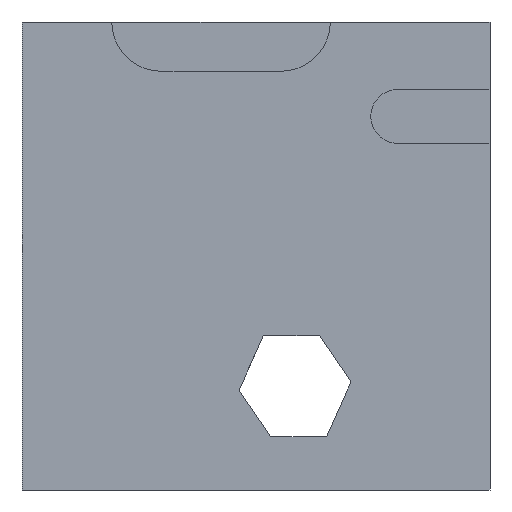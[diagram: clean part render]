
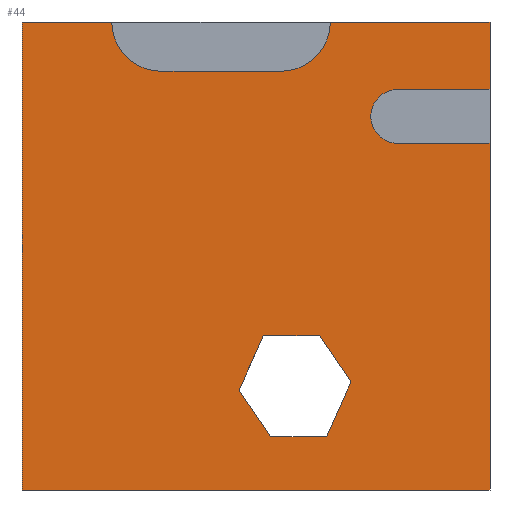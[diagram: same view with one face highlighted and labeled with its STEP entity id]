
A CAD part, front view. The second image highlights one B-rep face of the part: STEP entity #44.
In plain terms, the highlighted planar face has unit normal (0, -1, 0).
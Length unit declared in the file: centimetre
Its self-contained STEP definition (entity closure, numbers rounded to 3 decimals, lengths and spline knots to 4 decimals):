
#13 = ORIENTED_EDGE ( 'NONE', *, *, #607, .F. ) ;
#15 = DIRECTION ( 'NONE',  ( 0.563, 0., -0.827 ) ) ;
#19 = LINE ( 'NONE', #103, #591 ) ;
#20 = CARTESIAN_POINT ( 'NONE',  ( 515.8962, 0., 330.0424 ) ) ;
#26 = VERTEX_POINT ( 'NONE', #1005 ) ;
#27 = LINE ( 'NONE', #359, #149 ) ;
#32 = EDGE_CURVE ( 'NONE', #26, #650, #997, .T. ) ;
#35 = LINE ( 'NONE', #952, #1019 ) ;
#36 = ORIENTED_EDGE ( 'NONE', *, *, #923, .F. ) ;
#37 = VECTOR ( 'NONE', #655, 100. ) ;
#44 = ADVANCED_FACE ( 'NONE', ( #956, #382 ), #707, .F. ) ;
#56 = CARTESIAN_POINT ( 'NONE',  ( 1000., 0., 855.8858 ) ) ;
#64 = ORIENTED_EDGE ( 'NONE', *, *, #802, .F. ) ;
#65 = ORIENTED_EDGE ( 'NONE', *, *, #450, .F. ) ;
#74 = LINE ( 'NONE', #83, #37 ) ;
#83 = CARTESIAN_POINT ( 'NONE',  ( 702.9146, 0., 230.9403 ) ) ;
#102 = VECTOR ( 'NONE', #188, 100. ) ;
#103 = CARTESIAN_POINT ( 'NONE',  ( 0., 0., 1000. ) ) ;
#104 = CARTESIAN_POINT ( 'NONE',  ( 635.4523, 0., 330.0424 ) ) ;
#105 = CARTESIAN_POINT ( 'NONE',  ( 553.6473, 0., 1000. ) ) ;
#129 = CARTESIAN_POINT ( 'NONE',  ( 0., 0., 1000. ) ) ;
#134 = ORIENTED_EDGE ( 'NONE', *, *, #905, .F. ) ;
#139 = DIRECTION ( 'NONE',  ( -1., 0., 0. ) ) ;
#141 = DIRECTION ( 'NONE',  ( -0.407, 0., -0.913 ) ) ;
#149 = VECTOR ( 'NONE', #1065, 100. ) ;
#178 = EDGE_CURVE ( 'NONE', #1073, #767, #19, .T. ) ;
#188 = DIRECTION ( 'NONE',  ( -1., 0., 0. ) ) ;
#196 = CARTESIAN_POINT ( 'NONE',  ( 635.4523, 0., 330.0424 ) ) ;
#197 = DIRECTION ( 'NONE',  ( 0., 1., 0. ) ) ;
#202 = VERTEX_POINT ( 'NONE', #529 ) ;
#220 = LINE ( 'NONE', #888, #336 ) ;
#227 = ORIENTED_EDGE ( 'NONE', *, *, #870, .F. ) ;
#231 = AXIS2_PLACEMENT_3D ( 'NONE', #105, #431, #762 ) ;
#233 = ORIENTED_EDGE ( 'NONE', *, *, #412, .F. ) ;
#236 = EDGE_CURVE ( 'NONE', #501, #776, #27, .T. ) ;
#242 = ORIENTED_EDGE ( 'NONE', *, *, #527, .F. ) ;
#246 = ORIENTED_EDGE ( 'NONE', *, *, #539, .F. ) ;
#250 = CARTESIAN_POINT ( 'NONE',  ( 802.8768, 0., 740.6903 ) ) ;
#254 = ORIENTED_EDGE ( 'NONE', *, *, #373, .F. ) ;
#263 = LINE ( 'NONE', #674, #752 ) ;
#269 = VECTOR ( 'NONE', #391, 100. ) ;
#276 = VERTEX_POINT ( 'NONE', #56 ) ;
#289 = AXIS2_PLACEMENT_3D ( 'NONE', #615, #627, #788 ) ;
#293 = CARTESIAN_POINT ( 'NONE',  ( 650.8208, 0., 114.0922 ) ) ;
#296 = AXIS2_PLACEMENT_3D ( 'NONE', #973, #871, #967 ) ;
#302 = VERTEX_POINT ( 'NONE', #756 ) ;
#312 = LINE ( 'NONE', #652, #682 ) ;
#316 = CARTESIAN_POINT ( 'NONE',  ( 802.8768, 0., 740.6903 ) ) ;
#333 = CARTESIAN_POINT ( 'NONE',  ( 0., 0., 0. ) ) ;
#334 = VECTOR ( 'NONE', #15, 100. ) ;
#336 = VECTOR ( 'NONE', #787, 100. ) ;
#351 = LINE ( 'NONE', #623, #269 ) ;
#359 = CARTESIAN_POINT ( 'NONE',  ( 650.8208, 0., 114.0922 ) ) ;
#363 = VERTEX_POINT ( 'NONE', #1008 ) ;
#366 = ORIENTED_EDGE ( 'NONE', *, *, #654, .F. ) ;
#373 = EDGE_CURVE ( 'NONE', #302, #363, #263, .T. ) ;
#380 = VERTEX_POINT ( 'NONE', #196 ) ;
#382 = FACE_OUTER_BOUND ( 'NONE', #395, .T. ) ;
#387 = LINE ( 'NONE', #129, #741 ) ;
#391 = DIRECTION ( 'NONE',  ( 0., 0., -1. ) ) ;
#395 = EDGE_LOOP ( 'NONE', ( #862, #65, #242, #246, #233, #254, #134, #937, #470, #460, #366, #13 ) ) ;
#409 = CARTESIAN_POINT ( 'NONE',  ( 0., 0., 1000. ) ) ;
#412 = EDGE_CURVE ( 'NONE', #363, #965, #697, .T. ) ;
#431 = DIRECTION ( 'NONE',  ( 0., -1., 0. ) ) ;
#450 = EDGE_CURVE ( 'NONE', #276, #26, #1047, .T. ) ;
#460 = ORIENTED_EDGE ( 'NONE', *, *, #806, .T. ) ;
#469 = CARTESIAN_POINT ( 'NONE',  ( 1000., 0., 855.8858 ) ) ;
#470 = ORIENTED_EDGE ( 'NONE', *, *, #851, .T. ) ;
#501 = VERTEX_POINT ( 'NONE', #293 ) ;
#502 = CARTESIAN_POINT ( 'NONE',  ( 191.8577, 0., 1000. ) ) ;
#510 = VECTOR ( 'NONE', #599, 100. ) ;
#527 = EDGE_CURVE ( 'NONE', #1055, #276, #220, .T. ) ;
#529 = CARTESIAN_POINT ( 'NONE',  ( 463.8024, 0., 213.1943 ) ) ;
#534 = VERTEX_POINT ( 'NONE', #699 ) ;
#539 = EDGE_CURVE ( 'NONE', #965, #1055, #387, .T. ) ;
#547 = EDGE_LOOP ( 'NONE', ( #864, #884, #36, #64, #227, #743 ) ) ;
#551 = CARTESIAN_POINT ( 'NONE',  ( 531.2647, 0., 114.0922 ) ) ;
#567 = VECTOR ( 'NONE', #703, 100. ) ;
#586 = LINE ( 'NONE', #842, #334 ) ;
#591 = VECTOR ( 'NONE', #685, 100. ) ;
#599 = DIRECTION ( 'NONE',  ( 1., 0., 0. ) ) ;
#607 = EDGE_CURVE ( 'NONE', #650, #534, #826, .T. ) ;
#615 = CARTESIAN_POINT ( 'NONE',  ( 802.8768, 0., 798.2881 ) ) ;
#617 = LINE ( 'NONE', #551, #567 ) ;
#623 = CARTESIAN_POINT ( 'NONE',  ( 0., 0., 1000. ) ) ;
#627 = DIRECTION ( 'NONE',  ( 0., -1., 0. ) ) ;
#632 = VECTOR ( 'NONE', #139, 100. ) ;
#633 = VERTEX_POINT ( 'NONE', #747 ) ;
#634 = CARTESIAN_POINT ( 'NONE',  ( 658.772, 0., 1000. ) ) ;
#650 = VERTEX_POINT ( 'NONE', #316 ) ;
#652 = CARTESIAN_POINT ( 'NONE',  ( 1000., 0., 1000. ) ) ;
#654 = EDGE_CURVE ( 'NONE', #534, #772, #312, .T. ) ;
#655 = DIRECTION ( 'NONE',  ( -0.563, 0., 0.827 ) ) ;
#674 = CARTESIAN_POINT ( 'NONE',  ( 296.9825, 0., 894.8752 ) ) ;
#679 = CARTESIAN_POINT ( 'NONE',  ( 1000., 0., 0. ) ) ;
#682 = VECTOR ( 'NONE', #822, 100. ) ;
#685 = DIRECTION ( 'NONE',  ( 1., 0., 0. ) ) ;
#697 = CIRCLE ( 'NONE', #231, 105.1248 ) ;
#699 = CARTESIAN_POINT ( 'NONE',  ( 1000., 0., 740.6903 ) ) ;
#703 = DIRECTION ( 'NONE',  ( 1., 0., 0. ) ) ;
#707 = PLANE ( 'NONE',  #1037 ) ;
#717 = CARTESIAN_POINT ( 'NONE',  ( 531.2647, 0., 114.0922 ) ) ;
#720 = VECTOR ( 'NONE', #908, 100. ) ;
#739 = EDGE_CURVE ( 'NONE', #380, #849, #831, .T. ) ;
#741 = VECTOR ( 'NONE', #949, 100. ) ;
#743 = ORIENTED_EDGE ( 'NONE', *, *, #739, .F. ) ;
#747 = CARTESIAN_POINT ( 'NONE',  ( 0., 0., 0. ) ) ;
#751 = LINE ( 'NONE', #333, #510 ) ;
#752 = VECTOR ( 'NONE', #777, 100. ) ;
#756 = CARTESIAN_POINT ( 'NONE',  ( 296.9825, 0., 894.8752 ) ) ;
#762 = DIRECTION ( 'NONE',  ( 0., 0., -1. ) ) ;
#767 = VERTEX_POINT ( 'NONE', #502 ) ;
#772 = VERTEX_POINT ( 'NONE', #679 ) ;
#776 = VERTEX_POINT ( 'NONE', #854 ) ;
#777 = DIRECTION ( 'NONE',  ( 1., 0., 0. ) ) ;
#787 = DIRECTION ( 'NONE',  ( 0., 0., -1. ) ) ;
#788 = DIRECTION ( 'NONE',  ( 0., 0., -1. ) ) ;
#802 = EDGE_CURVE ( 'NONE', #202, #860, #586, .T. ) ;
#806 = EDGE_CURVE ( 'NONE', #633, #772, #751, .T. ) ;
#815 = CARTESIAN_POINT ( 'NONE',  ( 1000., 0., 1000. ) ) ;
#822 = DIRECTION ( 'NONE',  ( 0., 0., -1. ) ) ;
#826 = LINE ( 'NONE', #250, #720 ) ;
#831 = LINE ( 'NONE', #104, #102 ) ;
#842 = CARTESIAN_POINT ( 'NONE',  ( 463.8024, 0., 213.1943 ) ) ;
#849 = VERTEX_POINT ( 'NONE', #20 ) ;
#851 = EDGE_CURVE ( 'NONE', #1073, #633, #351, .T. ) ;
#854 = CARTESIAN_POINT ( 'NONE',  ( 702.9146, 0., 230.9403 ) ) ;
#857 = DIRECTION ( 'NONE',  ( 0., 0., 1. ) ) ;
#860 = VERTEX_POINT ( 'NONE', #717 ) ;
#862 = ORIENTED_EDGE ( 'NONE', *, *, #32, .F. ) ;
#864 = ORIENTED_EDGE ( 'NONE', *, *, #1032, .F. ) ;
#870 = EDGE_CURVE ( 'NONE', #849, #202, #35, .T. ) ;
#871 = DIRECTION ( 'NONE',  ( 0., -1., 0. ) ) ;
#884 = ORIENTED_EDGE ( 'NONE', *, *, #236, .F. ) ;
#888 = CARTESIAN_POINT ( 'NONE',  ( 1000., 0., 1000. ) ) ;
#905 = EDGE_CURVE ( 'NONE', #767, #302, #977, .T. ) ;
#908 = DIRECTION ( 'NONE',  ( 1., 0., 0. ) ) ;
#923 = EDGE_CURVE ( 'NONE', #860, #501, #617, .T. ) ;
#937 = ORIENTED_EDGE ( 'NONE', *, *, #178, .F. ) ;
#949 = DIRECTION ( 'NONE',  ( 1., 0., 0. ) ) ;
#952 = CARTESIAN_POINT ( 'NONE',  ( 515.8962, 0., 330.0424 ) ) ;
#956 = FACE_BOUND ( 'NONE', #547, .T. ) ;
#964 = CARTESIAN_POINT ( 'NONE',  ( 0., 0., 1000. ) ) ;
#965 = VERTEX_POINT ( 'NONE', #634 ) ;
#967 = DIRECTION ( 'NONE',  ( 0., 0., -1. ) ) ;
#973 = CARTESIAN_POINT ( 'NONE',  ( 296.9825, 0., 1000. ) ) ;
#977 = CIRCLE ( 'NONE', #296, 105.1248 ) ;
#997 = CIRCLE ( 'NONE', #289, 57.5977 ) ;
#1005 = CARTESIAN_POINT ( 'NONE',  ( 802.8768, 0., 855.8858 ) ) ;
#1008 = CARTESIAN_POINT ( 'NONE',  ( 553.6473, 0., 894.8752 ) ) ;
#1019 = VECTOR ( 'NONE', #141, 100. ) ;
#1032 = EDGE_CURVE ( 'NONE', #776, #380, #74, .T. ) ;
#1037 = AXIS2_PLACEMENT_3D ( 'NONE', #964, #197, #857 ) ;
#1047 = LINE ( 'NONE', #469, #632 ) ;
#1055 = VERTEX_POINT ( 'NONE', #815 ) ;
#1065 = DIRECTION ( 'NONE',  ( 0.407, 0., 0.913 ) ) ;
#1073 = VERTEX_POINT ( 'NONE', #409 ) ;
